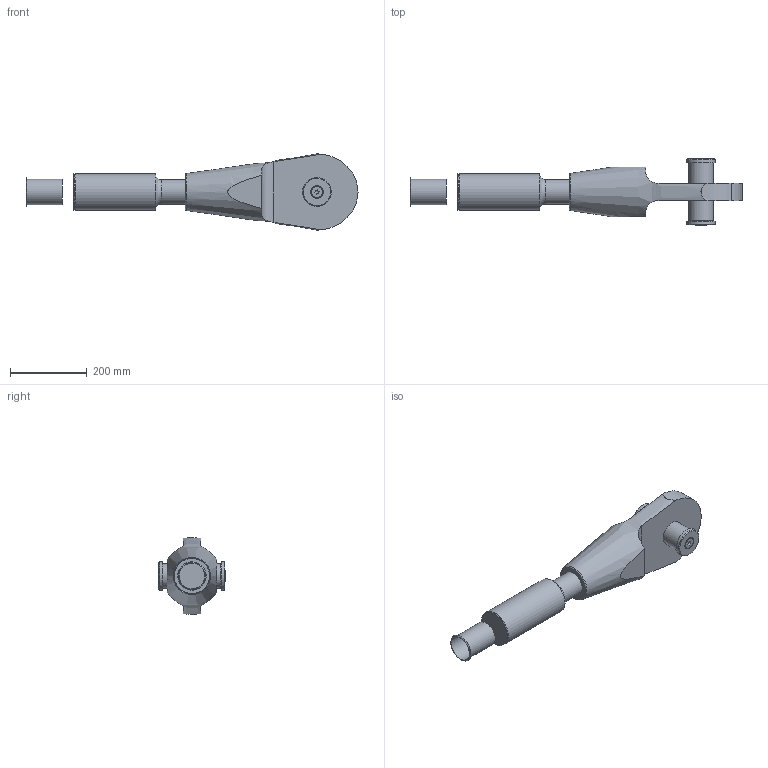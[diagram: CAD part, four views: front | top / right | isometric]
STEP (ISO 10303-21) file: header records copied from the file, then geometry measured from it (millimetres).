
FILE_DESCRIPTION(/* description */ (''),/* implementation_level */ '2;1');
FILE_NAME(/* name */ 'C:\Vault_WS\Designs\SB\01-PX\Verzinkt\ZSS\520 - Zusambau-OES-ADA\520-064-OES-ADA.stp',/* time_stamp */ '2020-10-07T15:41:13+02:00',/* author */ ('schwarz'),/* organization */ (''),/* preprocessor_version */ 'ST-DEVELOPER v18.1',/* originating_system */ 'Autodesk Inventor 2020',/* authorisation */ '');
FILE_SCHEMA (('AUTOMOTIVE_DESIGN { 1 0 10303 214 3 1 1 }'));
Length unit declared in the file: millimetre
Products named in the file (1): 520-064-OES-ADA-Kunde
Bounding box: 865.5 x 172.3 x 198.52 mm (x, y, z)
Volume: 7401569.3 mm3; surface area: 444162.5 mm2
Topology: 6 solids, 6 shells, 57 faces, 136 edges, 94 vertices
Faces by surface type: plane 26, cylinder 16, cone 13, torus 2
Full cylindrical faces by diameter (mm): 13.835 x1, 16 x1, 17.5 x1, 29.01 x1, 64 x2, 66.5 x1, 67 x1, 75 x2, 96 x1
Entity records: 1923 total; most frequent: CARTESIAN_POINT 442, DIRECTION 296, ORIENTED_EDGE 268, EDGE_CURVE 134, AXIS2_PLACEMENT_3D 126, VERTEX_POINT 94, CIRCLE 68, EDGE_LOOP 66
